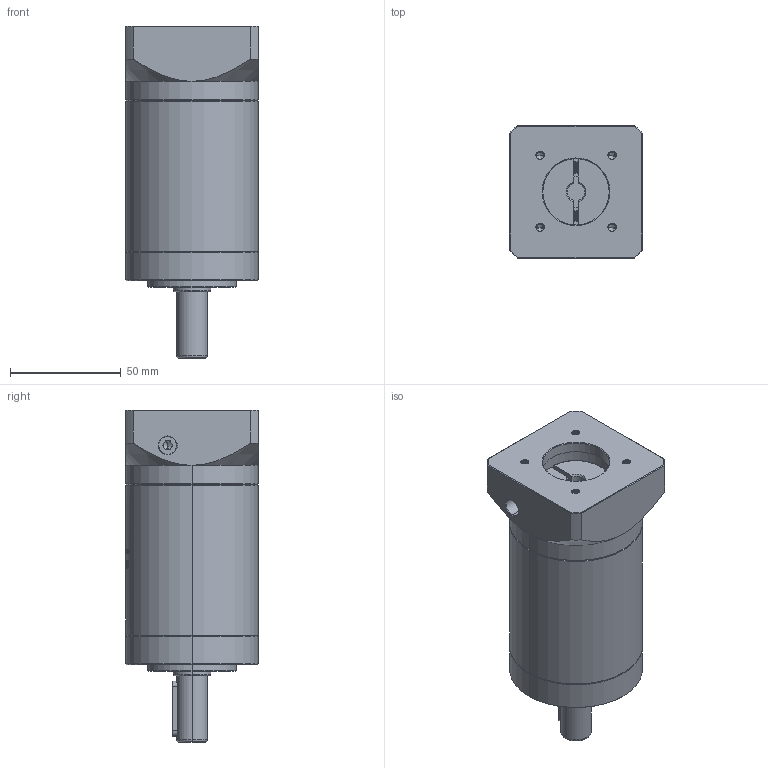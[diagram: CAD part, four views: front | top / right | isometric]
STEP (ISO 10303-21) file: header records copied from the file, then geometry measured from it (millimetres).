
FILE_DESCRIPTION (( 'STEP AP214' ), '1' );
FILE_NAME ('ZE60-D14-L3-8-30-46-M4.STEP', '2022-04-17T15:09:28', ( '' ), ( 'Microsoft' ), 'SwSTEP 2.0', 'SolidWorks 2016', '' );
FILE_SCHEMA (( 'AUTOMOTIVE_DESIGN' ));
Length unit declared in the file: millimetre
Products named in the file (1): ZE60-D14-L3-8-30-46-M4
Bounding box: 60 x 60 x 150 mm (x, y, z)
Volume: 319337.1 mm3; surface area: 49921.8 mm2
Topology: 6 solids, 6 shells, 1699 faces, 4625 edges, 2998 vertices
Faces by surface type: plane 732, cylinder 423, bspline 311, cone 213, torus 20
Entity records: 99726 total; most frequent: CARTESIAN_POINT 42519, ORIENTED_EDGE 9206, DIRECTION 6557, EDGE_CURVE 4603, VERTEX_POINT 2998, VECTOR 2295, LINE 2295, AXIS2_PLACEMENT_3D 2131
